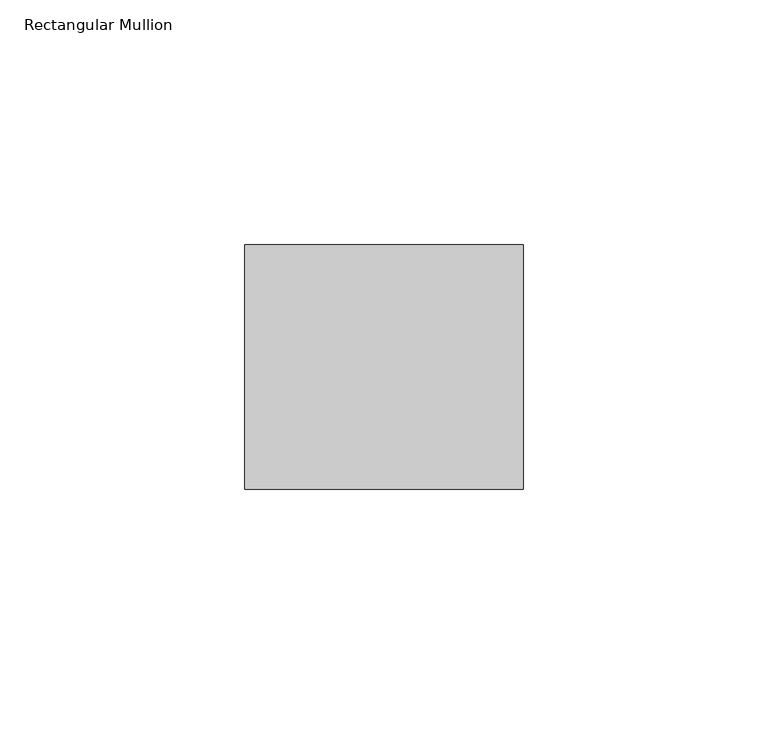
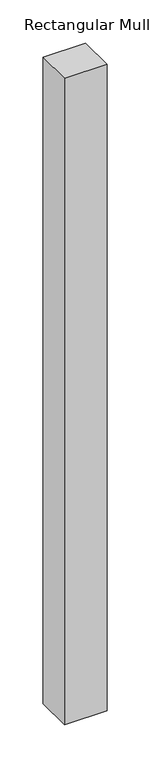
"""IFC4 building model written with IfcOpenShell, lengths in millimetres: member geometry, Rectangular Mullion : CEILING_TRACK 85-KLP00-P80-SD57XC."""

from ifc_helpers import new_model, si_unit, frame, origin, place, context, project, spatial, polyline, outline, extrude, source, transform, mapped, element, save


def rectangular_mullion_62f85b1f(model_context):
    return source(origin(), model_context, "Body", "SweptSolid", [
        extrude(outline(polyline([(0.0, -25.0), (-57.0, -25.0), (-57.0, 25.0), (0.0, 25.0), (0.0, -25.0)])), frame((0.0, 0.0, -917.0), z_axis=(0.0, 0.0, 1.0), x_axis=(1.0, 0.0, 0.0)), (0.0, 0.0, 1.0), 917.0),
    ])


if __name__ == "__main__":
    model = new_model("IFC4")
    model_context = context("Model", 3, world=origin())
    ifc_project = project(units=[si_unit("LENGTHUNIT", "METRE", prefix="MILLI")], contexts=[model_context])
    site = spatial("IfcSite", under=ifc_project)
    building = spatial("IfcBuilding", under=site)
    placement = place(None, origin())
    rectangular_mullion_shape = rectangular_mullion_62f85b1f(model_context)
    element("IfcMember", 1, ObjectType="Rectangular Mullion : CEILING_TRACK 85-KLP00-P80-SD57XC", at=placement, inside=building, context=model_context, shape_type="MappedRepresentation", body=[
        mapped(rectangular_mullion_shape, transform((0.0, 0.0, 0.0), x_axis=(1.0, 0.0, 0.0), y_axis=(0.0, 1.0, 0.0), z_axis=(0.0, 0.0, 1.0))),
    ])
    save(model, "model.ifc")
